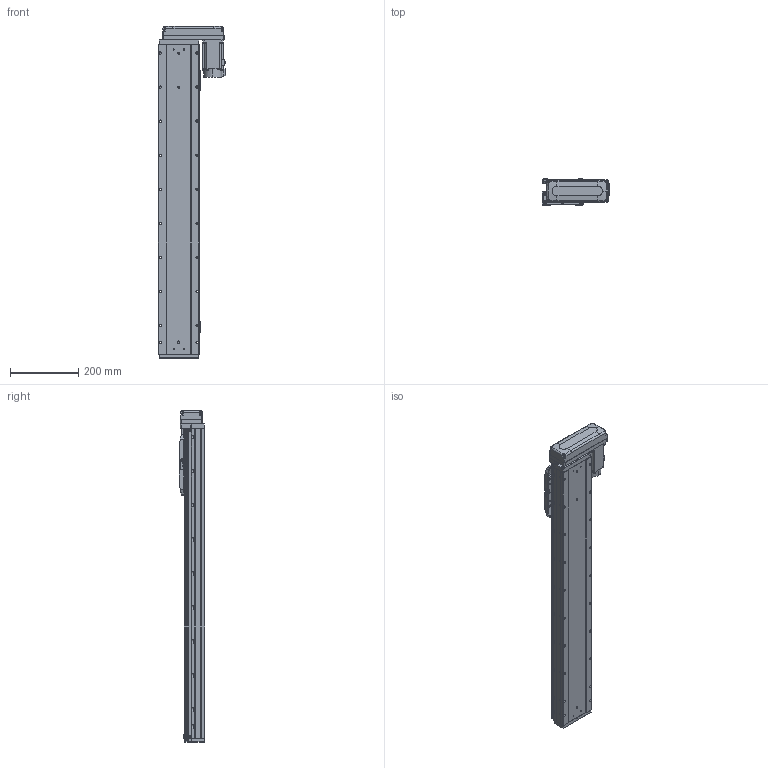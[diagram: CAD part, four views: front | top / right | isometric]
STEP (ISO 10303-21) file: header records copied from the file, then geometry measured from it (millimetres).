
FILE_DESCRIPTION (( 'STEP AP203' ), '1' );
FILE_NAME ('GTH12-700-BL-M40-C4.step', '2023-07-04T10:41:27', ( '微软用户' ), ( '微软中国' ), 'SwSTEP 2.0', 'SolidWorks 2020', '' );
FILE_SCHEMA (( 'CONFIG_CONTROL_DESIGN' ));
Length unit declared in the file: millimetre
Products named in the file (18): hg-kn43j_-s100_; GTH120-003; GTH80-022; CTHA86-033_M40B; GTH120-006; GTH80-028; GTH120-027-1_GTH120-027-2; GTH120-004; GTH50-023; GTH12-700-BL-M40-C4; GTH120-013; GTH50-024; GBT 70.1-M3℅6; GBT96.1-2002 3×0.8; GBT 70.1-M5×16; BTH-M3X5X6; GTH120-001_700; GBT 70.3-M3℅8
Assembly tree (59 placements, depth 2):
  GTH12-700-BL-M40-C4
    GTH120-001_700
    GTH120-003
    GTH120-006
    GTH120-004
    GTH120-013
    GBT 70.1-M3℅6  x14
    GBT 70.1-M5×16  x10
    GBT 70.3-M3℅8  x4
    GTH80-022
    GTH80-028  x2
    GTH50-023  x3
    GTH50-024  x3
    GBT96.1-2002 3×0.8  x6
    BTH-M3X5X6  x8
    hg-kn43j_-s100_
    CTHA86-033_M40B
    GTH120-027-1_GTH120-027-2
Bounding box: 199.8 x 76 x 975.5 mm (x, y, z)
Volume: 7211603.9 mm3; surface area: 659619.9 mm2
Topology: 61 solids, 61 shells, 2474 faces, 5777 edges, 3545 vertices
Faces by surface type: plane 1270, cylinder 720, cone 296, torus 174, sphere 8, bspline 6
Entity records: 46531 total; most frequent: CARTESIAN_POINT 7882, DIRECTION 7713, ORIENTED_EDGE 7164, EDGE_CURVE 3582, AXIS2_PLACEMENT_3D 2697, VECTOR 2319, LINE 2319, VERTEX_POINT 2266
